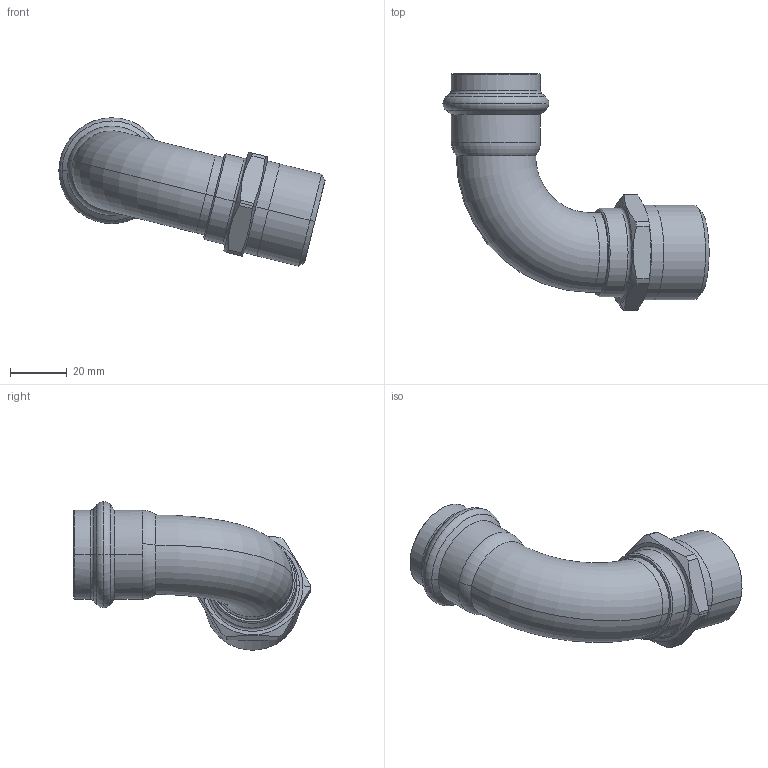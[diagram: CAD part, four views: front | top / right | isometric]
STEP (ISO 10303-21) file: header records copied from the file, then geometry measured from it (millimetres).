
FILE_DESCRIPTION(('CoCreate Modeling STEP Export'),'2;1');
FILE_NAME('8092GVW281.stp','2013-03-05T11:25:26',(''),(''),'CoCreate Modeling STEP processor for AP214 (Solid Model)','CoCreate Modeling 17.00A 17-Jun-2010 (C) Parametric Technology GmbH','');
FILE_SCHEMA(('AUTOMOTIVE_DESIGN { 1 0 10303 214 1 1 1 1 }'));
Length unit declared in the file: millimetre
Products named in the file (2): 8092GVW281
Assembly tree (1 placements, depth 2):
  8092GVW281
    8092GVW281
Bounding box: 93.52 x 82.99 x 52.16 mm (x, y, z)
Volume: 25401.5 mm3; surface area: 23370.7 mm2
Topology: 1 solids, 1 shells, 89 faces, 201 edges, 119 vertices
Faces by surface type: cylinder 34, cone 24, torus 18, plane 13
Entity records: 2792 total; most frequent: CARTESIAN_POINT 1078, ORIENTED_EDGE 402, DIRECTION 282, EDGE_CURVE 201, VERTEX_POINT 119, AXIS2_PLACEMENT_3D 109, EDGE_LOOP 96, FACE_OUTER_BOUND 89
